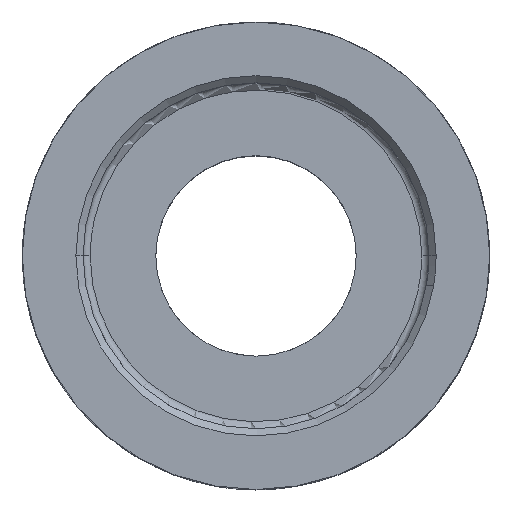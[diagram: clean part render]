
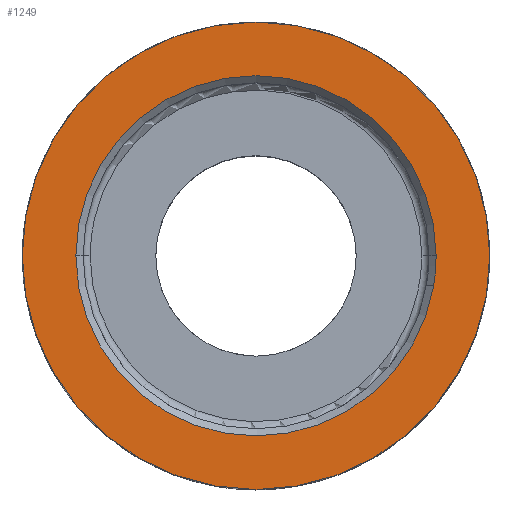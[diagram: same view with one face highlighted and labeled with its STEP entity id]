
A CAD part, top view. The second image highlights one B-rep face of the part: STEP entity #1249.
In plain terms, the highlighted planar face has unit normal (0, 0, 1).
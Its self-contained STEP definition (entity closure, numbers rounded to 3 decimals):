
#1187=AXIS2_PLACEMENT_3D('Plane Axis2P3D',#1184,#1185,#1186) ;
#1191=AXIS2_PLACEMENT_3D('Circle Axis2P3D',#1189,#1190,$) ;
#1200=AXIS2_PLACEMENT_3D('Circle Axis2P3D',#1198,#1199,$) ;
#1207=AXIS2_PLACEMENT_3D('Circle Axis2P3D',#1205,#1206,$) ;
#1214=AXIS2_PLACEMENT_3D('Circle Axis2P3D',#1212,#1213,$) ;
#1225=AXIS2_PLACEMENT_3D('Circle Axis2P3D',#1223,#1224,$) ;
#1234=AXIS2_PLACEMENT_3D('Circle Axis2P3D',#1232,#1233,$) ;
#1241=AXIS2_PLACEMENT_3D('Circle Axis2P3D',#1239,#1240,$) ;
#1184=CARTESIAN_POINT('Axis2P3D Location',(0.,0.,6.9)) ;
#1189=CARTESIAN_POINT('Axis2P3D Location',(0.,0.,6.9)) ;
#1193=CARTESIAN_POINT('Vertex',(-9.8,0.,6.9)) ;
#1195=CARTESIAN_POINT('Vertex',(0.,9.8,6.9)) ;
#1198=CARTESIAN_POINT('Axis2P3D Location',(0.,0.,6.9)) ;
#1202=CARTESIAN_POINT('Vertex',(0.,-9.8,6.9)) ;
#1205=CARTESIAN_POINT('Axis2P3D Location',(0.,0.,6.9)) ;
#1209=CARTESIAN_POINT('Vertex',(9.8,0.,6.9)) ;
#1212=CARTESIAN_POINT('Axis2P3D Location',(0.,0.,6.9)) ;
#1223=CARTESIAN_POINT('Axis2P3D Location',(0.,0.,6.9)) ;
#1227=CARTESIAN_POINT('Vertex',(7.443,-1.269,6.9)) ;
#1229=CARTESIAN_POINT('Vertex',(7.55,0.,6.9)) ;
#1232=CARTESIAN_POINT('Axis2P3D Location',(0.,0.,6.9)) ;
#1236=CARTESIAN_POINT('Vertex',(-7.55,0.,6.9)) ;
#1239=CARTESIAN_POINT('Axis2P3D Location',(0.,0.,6.9)) ;
#1185=DIRECTION('Axis2P3D Direction',(0.,0.,1.)) ;
#1186=DIRECTION('Axis2P3D XDirection',(1.,0.,0.)) ;
#1190=DIRECTION('Axis2P3D Direction',(0.,0.,1.)) ;
#1199=DIRECTION('Axis2P3D Direction',(0.,0.,1.)) ;
#1206=DIRECTION('Axis2P3D Direction',(0.,0.,1.)) ;
#1213=DIRECTION('Axis2P3D Direction',(0.,0.,1.)) ;
#1224=DIRECTION('Axis2P3D Direction',(0.,0.,1.)) ;
#1233=DIRECTION('Axis2P3D Direction',(0.,0.,1.)) ;
#1240=DIRECTION('Axis2P3D Direction',(0.,0.,1.)) ;
#1218=ORIENTED_EDGE('',*,*,#1197,.F.) ;
#1219=ORIENTED_EDGE('',*,*,#1204,.T.) ;
#1220=ORIENTED_EDGE('',*,*,#1211,.T.) ;
#1221=ORIENTED_EDGE('',*,*,#1216,.F.) ;
#1245=ORIENTED_EDGE('',*,*,#1231,.F.) ;
#1246=ORIENTED_EDGE('',*,*,#1238,.F.) ;
#1247=ORIENTED_EDGE('',*,*,#1243,.F.) ;
#1248=FACE_BOUND('',#1244,.T.) ;
#1249=ADVANCED_FACE('\X2\96F64EF651E04F554F53\X0\',(#1222,#1248),#1188,.T.) ;
#1192=CIRCLE('generated circle',#1191,9.8) ;
#1201=CIRCLE('generated circle',#1200,9.8) ;
#1208=CIRCLE('generated circle',#1207,9.8) ;
#1215=CIRCLE('generated circle',#1214,9.8) ;
#1226=CIRCLE('generated circle',#1225,7.55) ;
#1235=CIRCLE('generated circle',#1234,7.55) ;
#1242=CIRCLE('generated circle',#1241,7.55) ;
#1197=EDGE_CURVE('',#1194,#1196,#1192,.F.) ;
#1204=EDGE_CURVE('',#1194,#1203,#1201,.T.) ;
#1211=EDGE_CURVE('',#1203,#1210,#1208,.T.) ;
#1216=EDGE_CURVE('',#1196,#1210,#1215,.F.) ;
#1231=EDGE_CURVE('',#1228,#1230,#1226,.T.) ;
#1238=EDGE_CURVE('',#1237,#1228,#1235,.T.) ;
#1243=EDGE_CURVE('',#1230,#1237,#1242,.T.) ;
#1217=EDGE_LOOP('',(#1218,#1219,#1220,#1221)) ;
#1244=EDGE_LOOP('',(#1245,#1246,#1247)) ;
#1222=FACE_OUTER_BOUND('',#1217,.T.) ;
#1188=PLANE('Plane',#1187) ;
#1194=VERTEX_POINT('',#1193) ;
#1196=VERTEX_POINT('',#1195) ;
#1203=VERTEX_POINT('',#1202) ;
#1210=VERTEX_POINT('',#1209) ;
#1228=VERTEX_POINT('',#1227) ;
#1230=VERTEX_POINT('',#1229) ;
#1237=VERTEX_POINT('',#1236) ;
